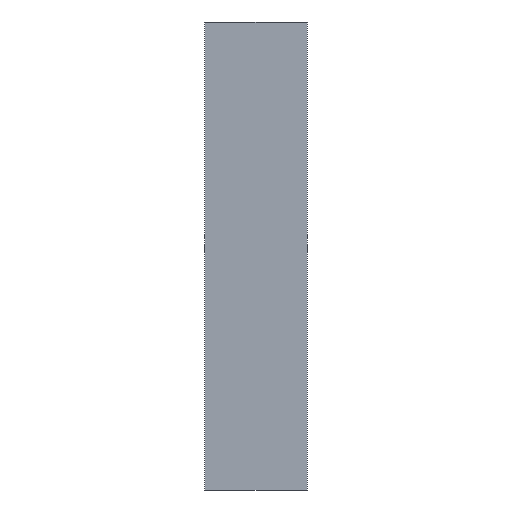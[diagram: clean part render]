
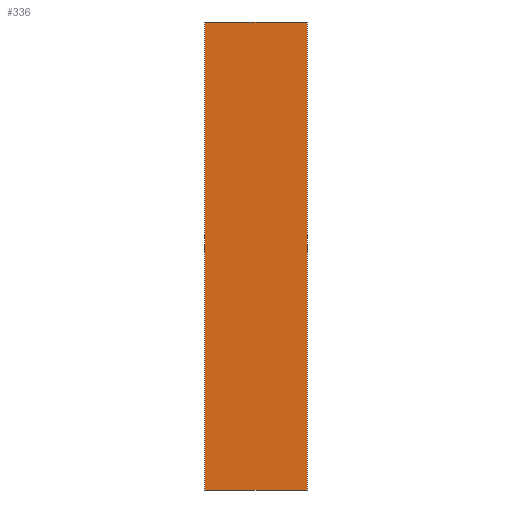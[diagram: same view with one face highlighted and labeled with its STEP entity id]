
A CAD part, front view. The second image highlights one B-rep face of the part: STEP entity #336.
In plain terms, the highlighted planar face has unit normal (0, -1, 0).
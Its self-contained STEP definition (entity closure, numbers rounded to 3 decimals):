
#4 = DIRECTION ( 'NONE',  ( -1., 0., 0. ) ) ;
#17 = DIRECTION ( 'NONE',  ( 0., 0., -1. ) ) ;
#54 = ORIENTED_EDGE ( 'NONE', *, *, #480, .F. ) ;
#67 = FACE_OUTER_BOUND ( 'NONE', #463, .T. ) ;
#119 = ORIENTED_EDGE ( 'NONE', *, *, #210, .F. ) ;
#144 = DIRECTION ( 'NONE',  ( 1., 0., 0. ) ) ;
#147 = ORIENTED_EDGE ( 'NONE', *, *, #502, .T. ) ;
#159 = VECTOR ( 'NONE', #17, 1000. ) ;
#164 = CARTESIAN_POINT ( 'NONE',  ( -440., 0., 2000. ) ) ;
#184 = LINE ( 'NONE', #307, #261 ) ;
#210 = EDGE_CURVE ( 'NONE', #613, #459, #477, .T. ) ;
#213 = VECTOR ( 'NONE', #216, 1000. ) ;
#216 = DIRECTION ( 'NONE',  ( 0., 0., -1. ) ) ;
#261 = VECTOR ( 'NONE', #144, 1000. ) ;
#298 = DIRECTION ( 'NONE',  ( 0., 1., 0. ) ) ;
#305 = PLANE ( 'NONE',  #487 ) ;
#307 = CARTESIAN_POINT ( 'NONE',  ( -440., 0., 2000. ) ) ;
#336 = ADVANCED_FACE ( 'NONE', ( #67 ), #305, .F. ) ;
#403 = EDGE_CURVE ( 'NONE', #699, #589, #440, .T. ) ;
#440 = LINE ( 'NONE', #164, #213 ) ;
#459 = VERTEX_POINT ( 'NONE', #488 ) ;
#463 = EDGE_LOOP ( 'NONE', ( #147, #119, #54, #520 ) ) ;
#477 = LINE ( 'NONE', #700, #159 ) ;
#480 = EDGE_CURVE ( 'NONE', #699, #613, #184, .T. ) ;
#482 = CARTESIAN_POINT ( 'NONE',  ( -440., 0., 2000. ) ) ;
#487 = AXIS2_PLACEMENT_3D ( 'NONE', #482, #298, #4 ) ;
#488 = CARTESIAN_POINT ( 'NONE',  ( 440., 0., -2000. ) ) ;
#497 = LINE ( 'NONE', #609, #705 ) ;
#502 = EDGE_CURVE ( 'NONE', #589, #459, #497, .T. ) ;
#520 = ORIENTED_EDGE ( 'NONE', *, *, #403, .T. ) ;
#536 = CARTESIAN_POINT ( 'NONE',  ( -440., 0., -2000. ) ) ;
#547 = DIRECTION ( 'NONE',  ( 1., 0., 0. ) ) ;
#589 = VERTEX_POINT ( 'NONE', #536 ) ;
#591 = CARTESIAN_POINT ( 'NONE',  ( -440., 0., 2000. ) ) ;
#596 = CARTESIAN_POINT ( 'NONE',  ( 440., 0., 2000. ) ) ;
#609 = CARTESIAN_POINT ( 'NONE',  ( -440., 0., -2000. ) ) ;
#613 = VERTEX_POINT ( 'NONE', #596 ) ;
#699 = VERTEX_POINT ( 'NONE', #591 ) ;
#700 = CARTESIAN_POINT ( 'NONE',  ( 440., 0., 2000. ) ) ;
#705 = VECTOR ( 'NONE', #547, 1000. ) ;
